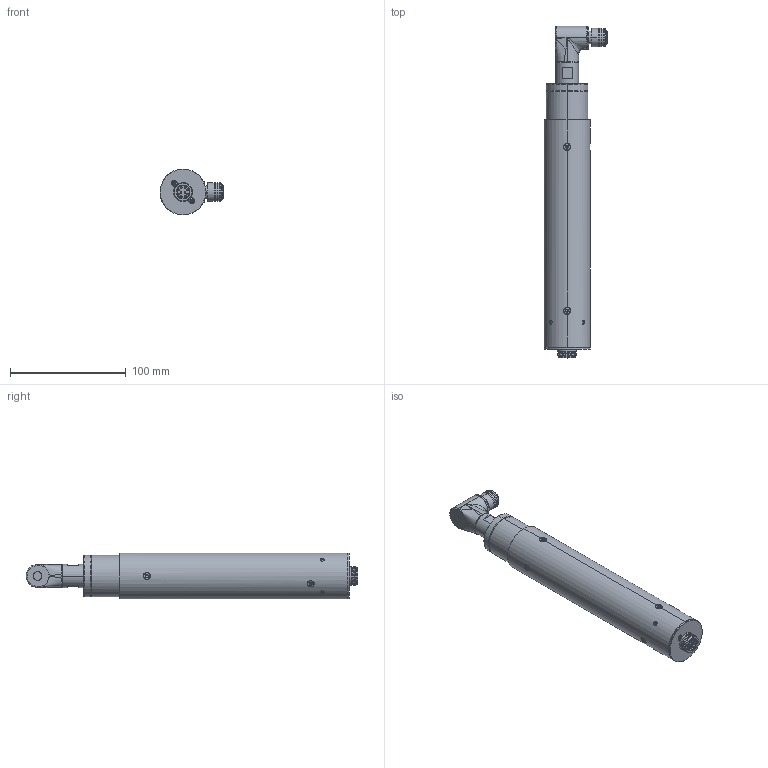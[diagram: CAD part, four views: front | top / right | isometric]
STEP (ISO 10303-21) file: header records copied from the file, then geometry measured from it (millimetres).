
FILE_DESCRIPTION (( 'STEP AP214' ), '1' );
FILE_NAME ('KDS 6-10CA Angolare 135006-A.STEP', '2021-09-27T12:00:47', ( '' ), ( '' ), 'SwSTEP 2.0', 'SolidWorks 2020', '' );
FILE_SCHEMA (( 'AUTOMOTIVE_DESIGN' ));
Length unit declared in the file: millimetre
Products named in the file (1): KDS 6-10CA Angolare 135006-A
Bounding box: 55.3 x 287.4 x 39.8 mm (x, y, z)
Surface area: 44786 mm2 (no closed solid volume)
Topology: 0 solids, 43 shells, 437 faces, 1373 edges, 931 vertices
Faces by surface type: cylinder 175, plane 109, cone 70, torus 56, bspline 27
Entity records: 26275 total; most frequent: CARTESIAN_POINT 9659, DIRECTION 2639, ORIENTED_EDGE 2087, EDGE_CURVE 1331, AXIS2_PLACEMENT_3D 1087, VERTEX_POINT 925, CIRCLE 676, EDGE_LOOP 510
